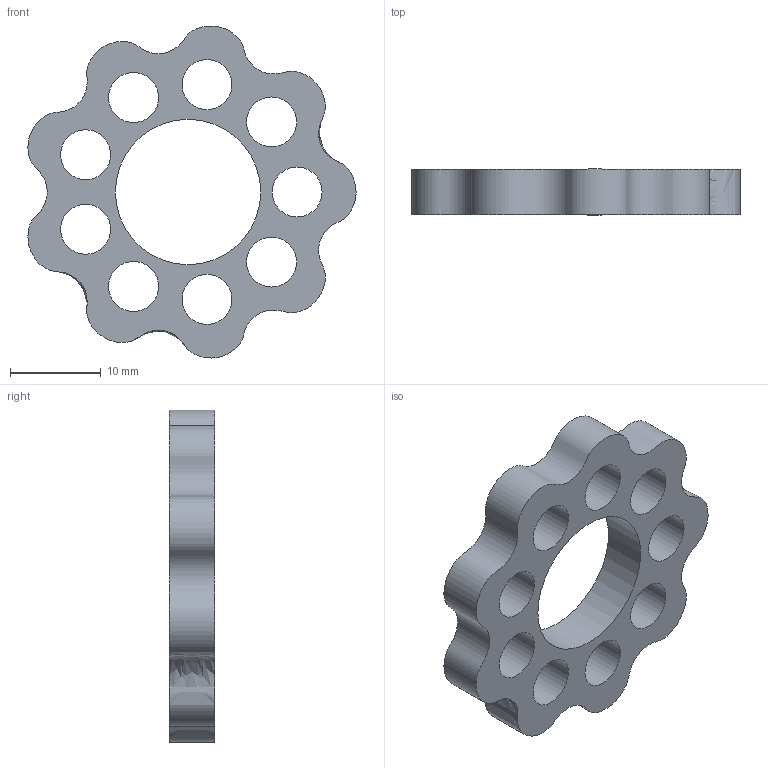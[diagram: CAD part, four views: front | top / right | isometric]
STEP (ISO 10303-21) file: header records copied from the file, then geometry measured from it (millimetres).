
FILE_DESCRIPTION(/* description */ (''),/* implementation_level */ '2;1');
FILE_NAME(/* name */ 'C:\Users\Ryzen5700u\Desktop\inventor\cyclo_small\ruota.stp',/* time_stamp */ '2022-04-29T13:08:39+02:00',/* author */ ('Ryzen5700u'),/* organization */ (''),/* preprocessor_version */ 'ST-DEVELOPER v18.1',/* originating_system */ 'Autodesk Inventor 2022',/* authorisation */ '');
FILE_SCHEMA (('AUTOMOTIVE_DESIGN { 1 0 10303 214 3 1 1 }'));
Length unit declared in the file: millimetre
Products named in the file (1): ruota
Bounding box: 36.13 x 5 x 36.55 mm (x, y, z)
Volume: 976.3 mm3; surface area: 2214.8 mm2
Topology: 1 solids, 1 shells, 13 faces, 33 edges, 22 vertices
Faces by surface type: cylinder 10, plane 2, bspline 1
Full cylindrical faces by diameter (mm): 5.5 x9, 16 x1
Entity records: 1633 total; most frequent: CARTESIAN_POINT 1211, DIRECTION 77, ORIENTED_EDGE 66, EDGE_LOOP 33, EDGE_CURVE 33, AXIS2_PLACEMENT_3D 33, VERTEX_POINT 22, FACE_BOUND 20
